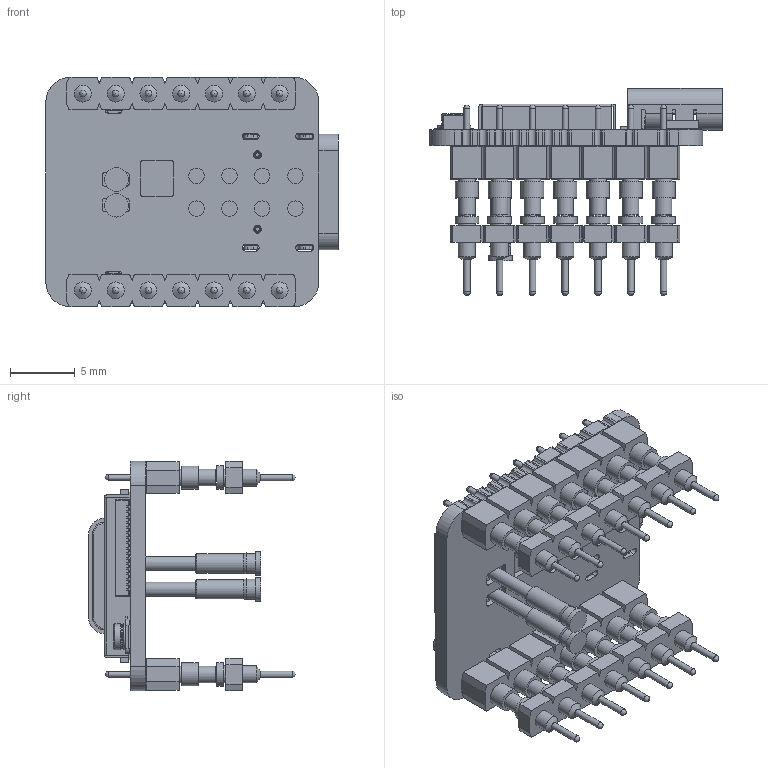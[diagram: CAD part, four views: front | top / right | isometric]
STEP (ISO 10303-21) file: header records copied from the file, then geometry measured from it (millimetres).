
FILE_DESCRIPTION(/* description */ (''),/* implementation_level */ '2;1');
FILE_NAME(/* name */ 'XIAO_PINNED.step',/* time_stamp */ '2026-05-11T15:18:28+02:00',/* author */ (''),/* organization */ (''),/* preprocessor_version */ 'ST-DEVELOPER v20.1',/* originating_system */ 'Autodesk Translation Framework v15.8.0.0',/* authorisation */ '');
FILE_SCHEMA (('AUTOMOTIVE_DESIGN { 1 0 10303 214 3 1 1 }'));
Length unit declared in the file: millimetre
Products named in the file (46): 2026-05-07-09-05-49-216; 2026-04-18-13-39-22-865; 2026-04-18-13-39-22-866; 2026-04-18-13-39-22-867; 2026-04-18-13-39-22-868; 2026-04-18-13-39-22-869; 2026-04-18-13-39-22-870; 2026-04-18-13-39-22-871; 2026-04-18-13-39-22-872; 2026-04-18-13-39-22-873; 2026-04-18-13-39-22-874; 2026-04-18-13-39-22-875; 2026-04-18-13-39-22-876; 2026-04-18-13-39-22-877; 2026-04-18-13-39-22-878; 2026-04-18-13-39-22-879; 2026-04-18-13-39-22-880; 2026-04-18-13-39-22-881; 2026-04-18-13-39-22-882; 2026-04-18-13-39-22-883; 2026-04-18-13-39-22-884; 2026-04-18-13-39-22-885; 2026-04-18-13-39-22-886; 2026-04-18-13-39-22-887; 2026-04-18-13-39-22-888; 2026-04-18-13-39-22-889; 2026-04-18-13-39-22-890; 2026-04-18-13-39-22-891; 2026-04-18-13-39-22-892; 2026-04-18-13-39-22-893; 2026-04-18-13-39-22-894; 2026-04-18-13-39-22-898; 2026-04-18-13-39-22-895; 2026-04-18-13-39-22-896; 2026-04-18-13-39-22-897; 2026-05-07-09-01-46-730; BBS-132-G-A; SL-132-G-11; 2026-05-07-09-01-46-730_1; BBS-132-G-A_1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
Assembly tree (75 placements, depth 6):
  2026-05-07-09-05-49-216
    2026-04-18-13-39-22-865
      2026-04-18-13-39-22-866
        2026-04-18-13-39-22-867
        2026-04-18-13-39-22-868
          2026-04-18-13-39-22-869
            2026-04-18-13-39-22-870
            2026-04-18-13-39-22-871
            2026-04-18-13-39-22-872
            2026-04-18-13-39-22-873
            2026-04-18-13-39-22-874
            2026-04-18-13-39-22-875
            2026-04-18-13-39-22-876
            2026-04-18-13-39-22-877
            2026-04-18-13-39-22-878
            2026-04-18-13-39-22-879
            2026-04-18-13-39-22-880
            2026-04-18-13-39-22-881
            2026-04-18-13-39-22-882
            2026-04-18-13-39-22-883
            2026-04-18-13-39-22-884
            2026-04-18-13-39-22-885
            2026-04-18-13-39-22-886
            2026-04-18-13-39-22-887
            2026-04-18-13-39-22-888
            2026-04-18-13-39-22-889
            2026-04-18-13-39-22-890
            2026-04-18-13-39-22-891
            2026-04-18-13-39-22-892
            2026-04-18-13-39-22-893
        2026-04-18-13-39-22-894
        2026-04-18-13-39-22-895  x2
          2026-04-18-13-39-22-896
          2026-04-18-13-39-22-897
        2026-04-18-13-39-22-898
    2026-05-07-09-01-46-730
      BBS-132-G-A
        BBS-132-G-A_socket
        BBS-132-G-A_pins  x7
      SL-132-G-11
        SL-132_socket
        SC-4P1_pins  x7
    2026-05-07-09-01-46-730_1
      BBS-132-G-A_1
        BBS-132-G-A_socket
        BBS-132-G-A_pins  x7
      SL-132-G-11_1
        SL-132_socket
        SC-4P1_pins  x7
    BBBD5AE7-1776-42E9-B8BB-734A5DD74C14  x2
Bounding box: 22.64 x 16.02 x 17.79 mm (x, y, z)
Volume: 1053.3 mm3; surface area: 4193.2 mm2
Topology: 95 solids, 95 shells, 2070 faces, 5270 edges, 3469 vertices
Faces by surface type: plane 1291, cylinder 629, cone 73, sphere 50, torus 24, bspline 3
Full cylindrical faces by diameter (mm): 0.457 x28, 0.5 x3, 0.508 x14, 0.6 x2, 0.85 x1, 0.914 x14, 1.016 x14, 1.062 x2, 1.2 x8, 1.27 x42, 1.321 x42, 1.499 x2, 1.549 x2, 1.72 x1, 1.778 x14, 1.829 x16, 1.86 x1, 2 x2
Entity records: 51013 total; most frequent: CARTESIAN_POINT 9043, DIRECTION 8551, ORIENTED_EDGE 8342, EDGE_CURVE 4171, LINE 3147, VECTOR 3147, VERTEX_POINT 2746, AXIS2_PLACEMENT_3D 2702
